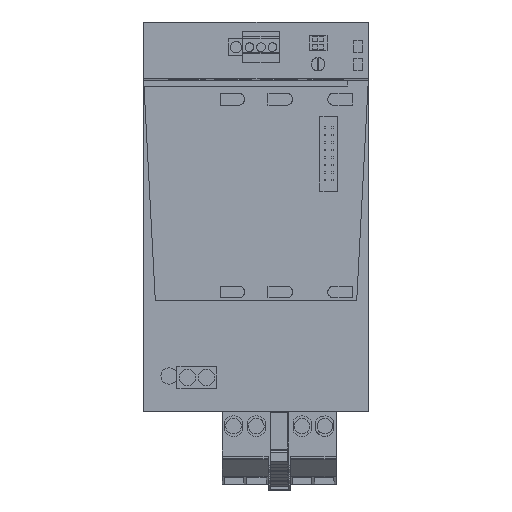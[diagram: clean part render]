
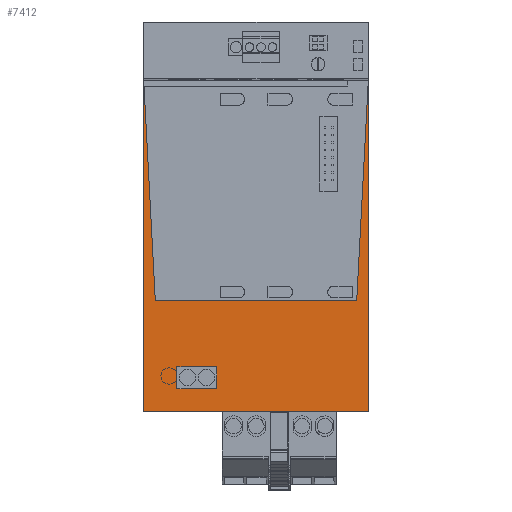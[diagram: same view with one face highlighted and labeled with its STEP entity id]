
A CAD part, top view. The second image highlights one B-rep face of the part: STEP entity #7412.
In plain terms, the highlighted planar face has unit normal (0, 0, 1).
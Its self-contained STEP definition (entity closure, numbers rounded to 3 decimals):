
#7349=AXIS2_PLACEMENT_3D('Plane Axis2P3D',#7346,#7347,#7348) ;
#673=CARTESIAN_POINT('Vertex',(0.,26.3,135.45)) ;
#676=CARTESIAN_POINT('Line Origine',(0.,81.596,135.45)) ;
#680=CARTESIAN_POINT('Vertex',(0.,136.891,135.45)) ;
#1310=CARTESIAN_POINT('Vertex',(75.,136.891,135.45)) ;
#1313=CARTESIAN_POINT('Line Origine',(75.,81.596,135.45)) ;
#1317=CARTESIAN_POINT('Vertex',(75.,26.3,135.45)) ;
#5445=CARTESIAN_POINT('Line Origine',(37.5,26.3,135.45)) ;
#7346=CARTESIAN_POINT('Axis2P3D Location',(75.,26.3,135.45)) ;
#7351=CARTESIAN_POINT('Line Origine',(1.932,100.029,135.45)) ;
#7355=CARTESIAN_POINT('Vertex',(3.864,63.167,135.45)) ;
#7358=CARTESIAN_POINT('Line Origine',(73.068,100.029,135.45)) ;
#7362=CARTESIAN_POINT('Vertex',(71.136,63.167,135.45)) ;
#7365=CARTESIAN_POINT('Line Origine',(37.5,63.167,135.45)) ;
#7378=CARTESIAN_POINT('Line Origine',(17.745,33.85,135.45)) ;
#7382=CARTESIAN_POINT('Vertex',(11.095,33.85,135.45)) ;
#7384=CARTESIAN_POINT('Vertex',(24.395,33.85,135.45)) ;
#7387=CARTESIAN_POINT('Line Origine',(11.095,37.5,135.45)) ;
#7391=CARTESIAN_POINT('Vertex',(11.095,41.15,135.45)) ;
#7394=CARTESIAN_POINT('Line Origine',(17.745,41.15,135.45)) ;
#7398=CARTESIAN_POINT('Vertex',(24.395,41.15,135.45)) ;
#7401=CARTESIAN_POINT('Line Origine',(24.395,37.5,135.45)) ;
#677=DIRECTION('Vector Direction',(0.,1.,0.)) ;
#1314=DIRECTION('Vector Direction',(0.,1.,0.)) ;
#5446=DIRECTION('Vector Direction',(-1.,0.,0.)) ;
#7347=DIRECTION('Axis2P3D Direction',(0.,-0.,1.)) ;
#7348=DIRECTION('Axis2P3D XDirection',(0.,1.,0.)) ;
#7352=DIRECTION('Vector Direction',(-0.052,0.999,0.)) ;
#7359=DIRECTION('Vector Direction',(0.052,0.999,0.)) ;
#7366=DIRECTION('Vector Direction',(1.,0.,0.)) ;
#7379=DIRECTION('Vector Direction',(-1.,0.,0.)) ;
#7388=DIRECTION('Vector Direction',(0.,-1.,0.)) ;
#7395=DIRECTION('Vector Direction',(1.,0.,0.)) ;
#7402=DIRECTION('Vector Direction',(0.,1.,0.)) ;
#678=VECTOR('Line Direction',#677,1.) ;
#1315=VECTOR('Line Direction',#1314,1.) ;
#5447=VECTOR('Line Direction',#5446,1.) ;
#7353=VECTOR('Line Direction',#7352,1.) ;
#7360=VECTOR('Line Direction',#7359,1.) ;
#7367=VECTOR('Line Direction',#7366,1.) ;
#7380=VECTOR('Line Direction',#7379,1.) ;
#7389=VECTOR('Line Direction',#7388,1.) ;
#7396=VECTOR('Line Direction',#7395,1.) ;
#7403=VECTOR('Line Direction',#7402,1.) ;
#7371=ORIENTED_EDGE('',*,*,#7357,.T.) ;
#7372=ORIENTED_EDGE('',*,*,#682,.F.) ;
#7373=ORIENTED_EDGE('',*,*,#5449,.F.) ;
#7374=ORIENTED_EDGE('',*,*,#1319,.F.) ;
#7375=ORIENTED_EDGE('',*,*,#7364,.F.) ;
#7376=ORIENTED_EDGE('',*,*,#7369,.F.) ;
#7407=ORIENTED_EDGE('',*,*,#7386,.F.) ;
#7408=ORIENTED_EDGE('',*,*,#7393,.F.) ;
#7409=ORIENTED_EDGE('',*,*,#7400,.F.) ;
#7410=ORIENTED_EDGE('',*,*,#7405,.F.) ;
#7411=FACE_BOUND('',#7406,.T.) ;
#7412=ADVANCED_FACE('STROMVERSORGUNG',(#7377,#7411),#7350,.T.) ;
#682=EDGE_CURVE('',#674,#681,#679,.T.) ;
#1319=EDGE_CURVE('',#1311,#1318,#1316,.F.) ;
#5449=EDGE_CURVE('',#1318,#674,#5448,.T.) ;
#7357=EDGE_CURVE('',#7356,#681,#7354,.T.) ;
#7364=EDGE_CURVE('',#7363,#1311,#7361,.T.) ;
#7369=EDGE_CURVE('',#7356,#7363,#7368,.T.) ;
#7386=EDGE_CURVE('',#7383,#7385,#7381,.F.) ;
#7393=EDGE_CURVE('',#7392,#7383,#7390,.T.) ;
#7400=EDGE_CURVE('',#7399,#7392,#7397,.F.) ;
#7405=EDGE_CURVE('',#7385,#7399,#7404,.T.) ;
#7370=EDGE_LOOP('',(#7371,#7372,#7373,#7374,#7375,#7376)) ;
#7406=EDGE_LOOP('',(#7407,#7408,#7409,#7410)) ;
#7377=FACE_OUTER_BOUND('',#7370,.T.) ;
#679=LINE('Line',#676,#678) ;
#1316=LINE('Line',#1313,#1315) ;
#5448=LINE('Line',#5445,#5447) ;
#7354=LINE('Line',#7351,#7353) ;
#7361=LINE('Line',#7358,#7360) ;
#7368=LINE('Line',#7365,#7367) ;
#7381=LINE('Line',#7378,#7380) ;
#7390=LINE('Line',#7387,#7389) ;
#7397=LINE('Line',#7394,#7396) ;
#7404=LINE('Line',#7401,#7403) ;
#7350=PLANE('',#7349) ;
#674=VERTEX_POINT('',#673) ;
#681=VERTEX_POINT('',#680) ;
#1311=VERTEX_POINT('',#1310) ;
#1318=VERTEX_POINT('',#1317) ;
#7356=VERTEX_POINT('',#7355) ;
#7363=VERTEX_POINT('',#7362) ;
#7383=VERTEX_POINT('',#7382) ;
#7385=VERTEX_POINT('',#7384) ;
#7392=VERTEX_POINT('',#7391) ;
#7399=VERTEX_POINT('',#7398) ;
